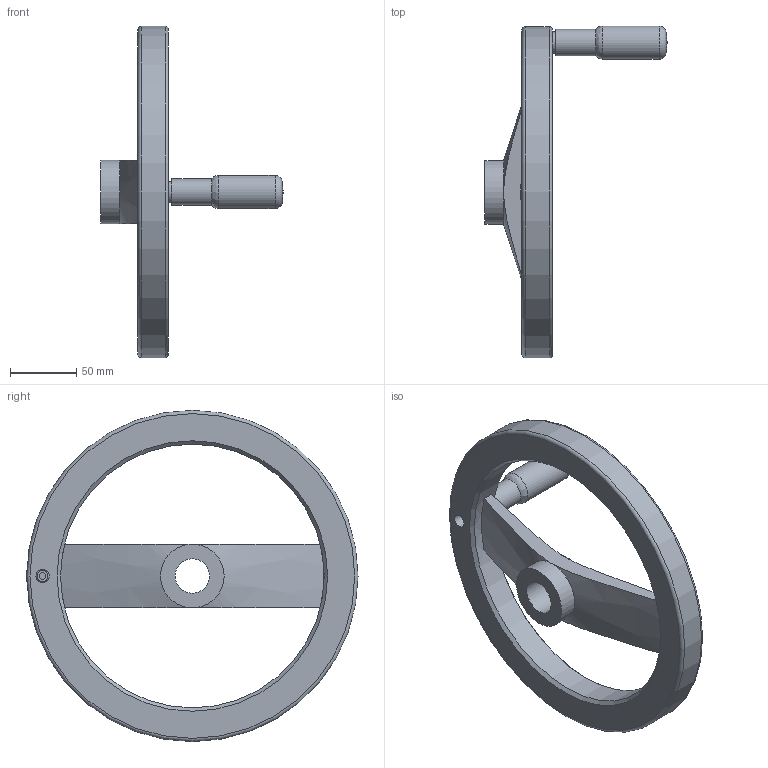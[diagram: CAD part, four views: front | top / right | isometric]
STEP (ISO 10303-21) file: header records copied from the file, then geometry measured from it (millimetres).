
FILE_DESCRIPTION( ( 'STEP AP203' ), '1' );
FILE_NAME( 'C:/Temp/Ganter_Step_05_03_2020/data/1_3/gn_324/gn_324_b/gn_324_b_d/Handwheel, matt black GN 324-250-B26-R.stp', '2020-03-05T10:32:58', ( 'License CC BY-ND 4.0' ), ( 'CADENAS' ), ' ', 'PARTsolutions', ' ' );
FILE_SCHEMA( ( 'CONFIG_CONTROL_DESIGN' ) );
Length unit declared in the file: millimetre
Products named in the file (1): _Handwheel, matt black GN 324-250-B26-R
Bounding box: 137.5 x 250.5 x 250 mm (x, y, z)
Volume: 560792.6 mm3; surface area: 98859.8 mm2
Topology: 1 solids, 2 shells, 40 faces, 86 edges, 52 vertices
Faces by surface type: plane 16, cylinder 11, cone 8, torus 3, bspline 1, sphere 1
Full cylindrical faces by diameter (mm): 8.14 x1, 10 x2, 16 x1, 20 x1, 25 x1, 26 x1, 48 x2, 199 x1, 250 x1
Entity records: 1183 total; most frequent: CARTESIAN_POINT 339, DIRECTION 170, ORIENTED_EDGE 128, AXIS2_PLACEMENT_3D 74, EDGE_LOOP 70, EDGE_CURVE 64, FACE_OUTER_BOUND 55, VERTEX_POINT 51
